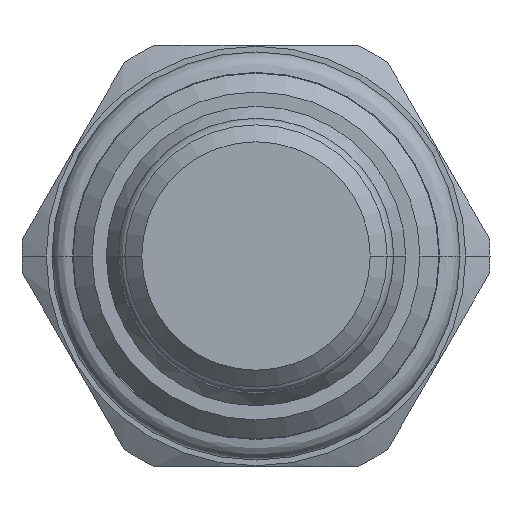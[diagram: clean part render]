
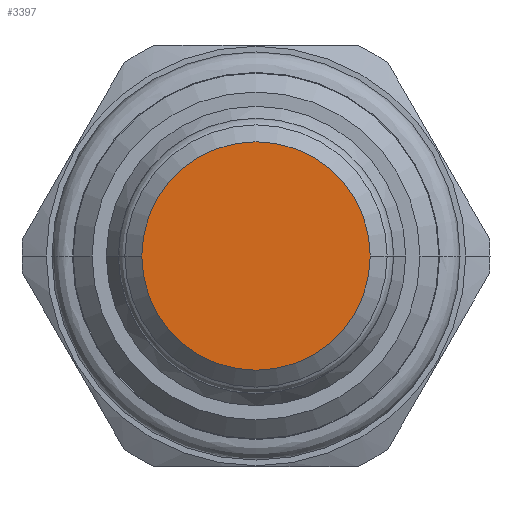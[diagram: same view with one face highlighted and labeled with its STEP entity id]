
A CAD part, front view. The second image highlights one B-rep face of the part: STEP entity #3397.
In plain terms, the highlighted planar face has unit normal (0, -1, 0).
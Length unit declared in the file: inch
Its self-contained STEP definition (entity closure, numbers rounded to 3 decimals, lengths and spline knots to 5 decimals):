
#1037=CARTESIAN_POINT('',(0.,-1.31,0.));
#1038=DIRECTION('',(0.,-1.,0.));
#1039=DIRECTION('',(-1.,0.,0.));
#1040=AXIS2_PLACEMENT_3D('',#1037,#1038,#1039);
#1042=CARTESIAN_POINT('',(0.,-1.31,0.));
#1043=DIRECTION('',(0.,-1.,0.));
#1044=DIRECTION('',(1.,0.,0.));
#1045=AXIS2_PLACEMENT_3D('',#1042,#1043,#1044);
#1903=CARTESIAN_POINT('',(-0.271,-1.31,0.));
#1904=CARTESIAN_POINT('',(0.271,-1.31,0.));
#1905=VERTEX_POINT('',#1903);
#1906=VERTEX_POINT('',#1904);
#3387=CARTESIAN_POINT('',(0.,-1.31,0.));
#3388=DIRECTION('',(0.,1.,0.));
#3389=DIRECTION('',(1.,0.,0.));
#3390=AXIS2_PLACEMENT_3D('',#3387,#3388,#3389);
#3391=PLANE('',#3390);
#3393=ORIENTED_EDGE('',*,*,#3392,.F.);
#3394=ORIENTED_EDGE('',*,*,#3377,.F.);
#3395=EDGE_LOOP('',(#3393,#3394));
#3396=FACE_OUTER_BOUND('',#3395,.F.);
#3397=ADVANCED_FACE('',(#3396),#3391,.F.);
#1041=CIRCLE('',#1040,0.271);
#1046=CIRCLE('',#1045,0.271);
#3377=EDGE_CURVE('',#1906,#1905,#1046,.T.);
#3392=EDGE_CURVE('',#1905,#1906,#1041,.T.);
